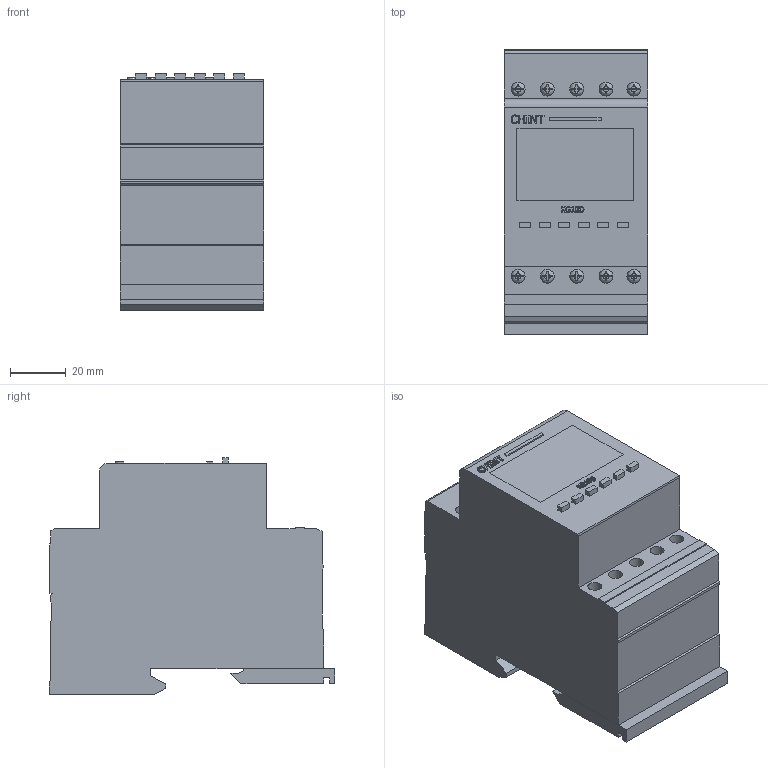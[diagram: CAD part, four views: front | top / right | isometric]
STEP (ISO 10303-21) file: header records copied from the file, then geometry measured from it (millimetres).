
FILE_DESCRIPTION(/* description */ (''),/* implementation_level */ '2;1');
FILE_NAME(/* name */ 'D:\CHINT\NKG3\Таймер электр KG10D (CHINT).stp',/* time_stamp */ '2017-09-30T15:42:09+04:00',/* author */ ('RSagdiev'),/* organization */ (''),/* preprocessor_version */ 'ST-DEVELOPER v16.5',/* originating_system */ 'Autodesk Inventor 2017',/* authorisation */ '');
FILE_SCHEMA (('AUTOMOTIVE_DESIGN { 1 0 10303 214 3 1 1 }'));
Length unit declared in the file: millimetre
Products named in the file (1): Таймер \X2\044D043B0435043A0442
0440\X0\ KG10D (CHINT)
Bounding box: 51.5 x 102.3 x 84.7 mm (x, y, z)
Volume: 350050.6 mm3; surface area: 41594.6 mm2
Topology: 19 solids, 19 shells, 596 faces, 1582 edges, 1060 vertices
Faces by surface type: plane 446, bspline 128, cylinder 22
Full cylindrical faces by diameter (mm): 5 x20
Entity records: 19603 total; most frequent: CARTESIAN_POINT 5511, ORIENTED_EDGE 3116, DIRECTION 2428, EDGE_CURVE 1558, LINE 1092, VECTOR 1092, VERTEX_POINT 1052, AXIS2_PLACEMENT_3D 668
